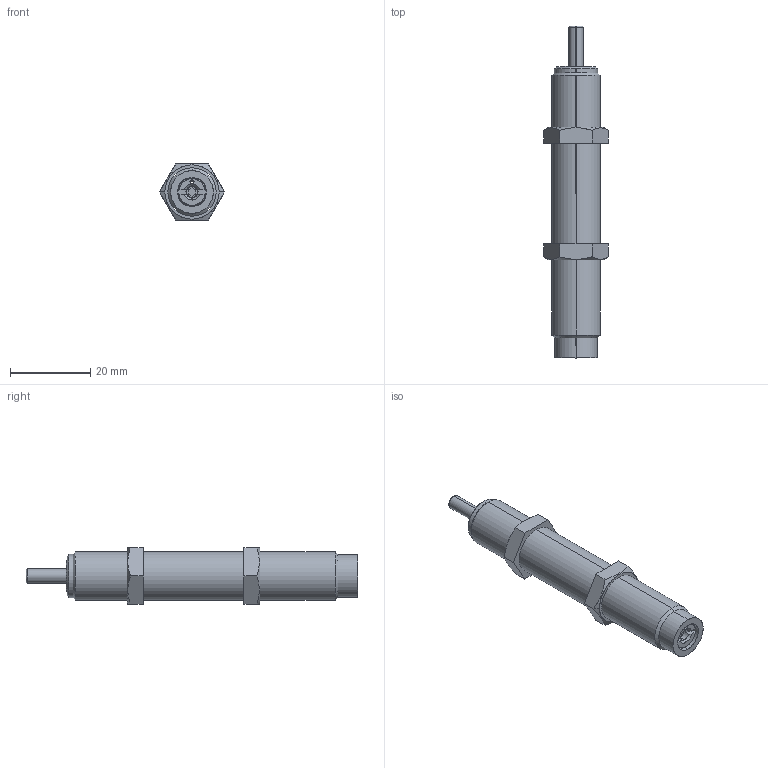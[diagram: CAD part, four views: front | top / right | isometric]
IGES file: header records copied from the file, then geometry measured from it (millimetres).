
Start section: SolidWorks IGES file using analytic representation for surfaces
Bounding box: 16.17 x 82.6 x 14 mm (x, y, z)
Surface area: 4184.3 mm2 (no closed solid volume)
Topology: 0 solids, 0 shells, 70 faces, 900 edges, 899 vertices
Faces by surface type: revolution 38, bspline 32
